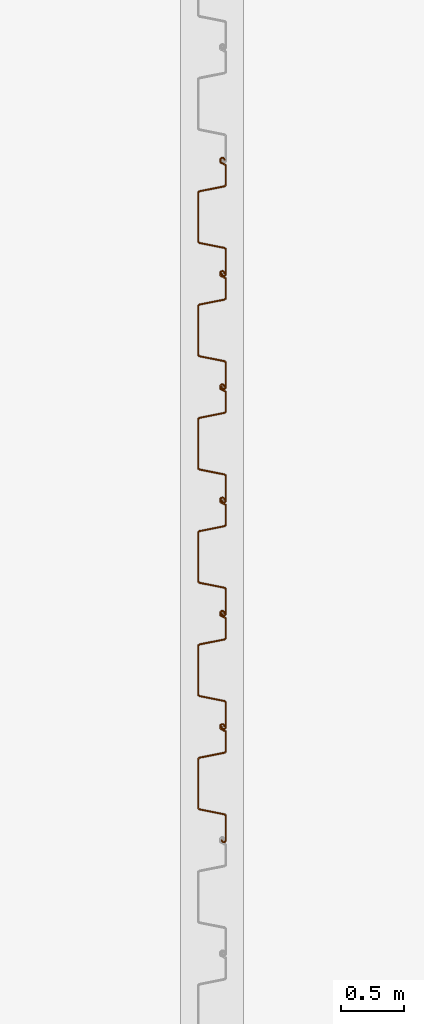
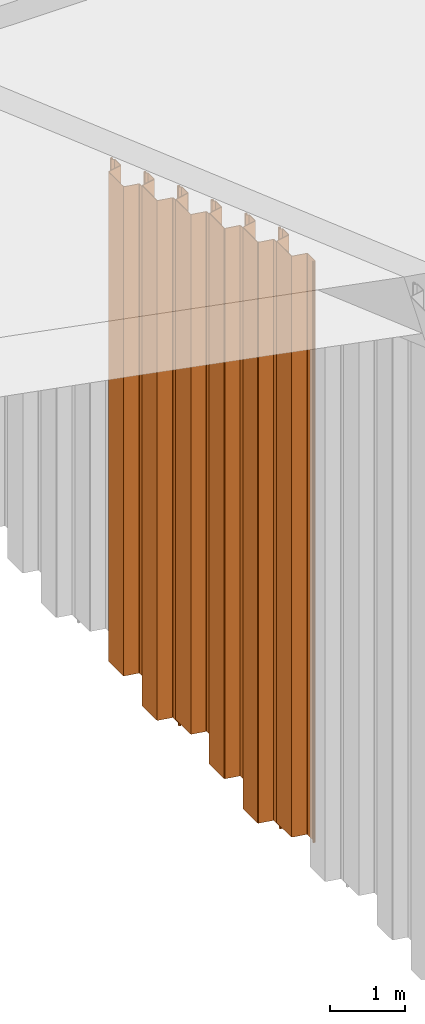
# One storey, part 13 of 32: 6 proxies.
"""IFC2X3 building model written with IfcOpenShell, lengths in millimetres."""

import ifcopenshell
import ifcopenshell.guid

model = None  # the IFC model being written
_history = None  # IfcOwnerHistory: only IFC2X3 demands one
_inside = {}  # id of a spatial element -> (the spatial element, [elements in it])
_under = {}  # id of a project, library or spatial element -> (it, [spatial elements below it])
_declared = {}  # id of a project -> (the project, [libraries it declares])
_typed = {}  # id of a type object -> (the type object, [elements of that type])
_made_of = {}  # id of a material, layer set ... -> (it, [elements and type objects made of it])


def new_model(schema):
    """Start an empty IFC model of exactly this schema.

    Asked for "IFC4X3", IfcOpenShell would pick the latest addendum, in which some entities
    have other attributes; the version numbers below select the first issue.
    IFC2X3 requires an IfcOwnerHistory on every rooted entity: one is made here for all.
    """
    global model, _history
    if schema == "IFC4X3":
        model = ifcopenshell.file(schema_version=(4, 3, 0, 0))
    else:
        model = ifcopenshell.file(schema=schema)
    _inside.clear()
    _under.clear()
    _declared.clear()
    _typed.clear()
    _made_of.clear()
    _history = None
    if model.schema == "IFC2X3":
        org = make("IfcOrganization", Name="unknown")
        user = make(
            "IfcPersonAndOrganization",
            ThePerson=make("IfcPerson", FamilyName="unknown"),
            TheOrganization=org,
        )
        app = make(
            "IfcApplication",
            ApplicationDeveloper=org,
            Version="unknown",
            ApplicationFullName="unknown",
            ApplicationIdentifier="unknown",
        )
        _history = make(
            "IfcOwnerHistory",
            OwningUser=user,
            OwningApplication=app,
            ChangeAction="ADDED",
            CreationDate=0,
        )
    return model


def make(cls, **values):
    """One entity of the class cls with the attributes given. An attribute that is None is left unset."""
    return model.create_entity(
        cls, **{name: value for name, value in values.items() if value is not None}
    )


def entity(cls, *values):
    """Any entity or typed value of the class cls, its attributes in the order of the schema. None: left unset."""
    e = model.create_entity(cls)
    for i, value in enumerate(values):
        if value is not None:
            e[i] = value
    return e


def rooted(cls, **values):
    """An entity with a GlobalId (a new one), such as an element, a storey or a relation."""
    return make(cls, GlobalId=ifcopenshell.guid.new(), OwnerHistory=_history, **values)


def si_unit(unit_type, name, prefix=None):
    """IfcSIUnit, for example si_unit("LENGTHUNIT", "METRE", prefix="MILLI")."""
    return make("IfcSIUnit", UnitType=unit_type, Prefix=prefix, Name=name)


def converted_unit(unit_type, name, factor, base, dimensions=None, offset=None):
    """IfcConversionBasedUnit, such as the inch: factor (a typed value) times the base unit."""
    return make(
        "IfcConversionBasedUnit"
        if offset is None
        else "IfcConversionBasedUnitWithOffset",
        ConversionOffset=offset,
        Dimensions=None
        if dimensions is None
        else entity("IfcDimensionalExponents", *dimensions),
        UnitType=unit_type,
        Name=name,
        ConversionFactor=make(
            "IfcMeasureWithUnit", ValueComponent=factor, UnitComponent=base
        ),
    )


def derived_unit(unit_type, elements):
    """IfcDerivedUnit: a product of units, each with its exponent."""
    return make(
        "IfcDerivedUnit",
        Elements=[
            make("IfcDerivedUnitElement", Unit=unit, Exponent=power)
            for unit, power in elements
        ],
        UnitType=unit_type,
    )


def assignment(units):
    """IfcUnitAssignment: the units of a project."""
    return None if units is None else make("IfcUnitAssignment", Units=units)


def point(xyz):
    """IfcCartesianPoint."""
    return None if xyz is None else make("IfcCartesianPoint", Coordinates=xyz)


def direction(xyz):
    """IfcDirection."""
    return None if xyz is None else make("IfcDirection", DirectionRatios=xyz)


def frame(location, z_axis=None, x_axis=None):
    """IfcAxis2Placement3D, a coordinate frame: its origin and axes. An axis left out is left unset."""
    return make(
        "IfcAxis2Placement3D",
        Location=point(location),
        Axis=direction(z_axis),
        RefDirection=direction(x_axis),
    )


def frame_2d(location, x_axis=None):
    """IfcAxis2Placement2D, a coordinate frame in the plane: its origin and x axis."""
    return make(
        "IfcAxis2Placement2D", Location=point(location), RefDirection=direction(x_axis)
    )


def origin():
    """The frame at (0, 0, 0) with its axes left unset."""
    return frame((0.0, 0.0, 0.0))


def place(relative_to, where):
    """IfcLocalPlacement: puts the frame where relative to a parent placement (None: the world)."""
    return make(
        "IfcLocalPlacement", PlacementRelTo=relative_to, RelativePlacement=where
    )


def context(
    kind, dimensions, precision=None, world=None, true_north=None, identifier=None
):
    """IfcGeometricRepresentationContext, for example the 3D "Model" context."""
    return make(
        "IfcGeometricRepresentationContext",
        ContextIdentifier=identifier,
        ContextType=kind,
        CoordinateSpaceDimension=dimensions,
        Precision=precision,
        WorldCoordinateSystem=world,
        TrueNorth=true_north,
    )


def subcontext(parent, identifier, kind, view, scale=None):
    """IfcGeometricRepresentationSubContext, for example "Body" below "Model"."""
    return make(
        "IfcGeometricRepresentationSubContext",
        ContextIdentifier=identifier,
        ContextType=kind,
        ParentContext=parent,
        TargetScale=scale,
        TargetView=view,
    )


def project(units=None, contexts=None):
    """IfcProject with its units and contexts."""
    return rooted(
        "IfcProject",
        Name="project",
        RepresentationContexts=contexts,
        UnitsInContext=assignment(units),
    )


def spatial(cls, under=None, at=None, **own):
    """A site, building, storey or space (cls), placed at a placement, below another one or the project."""
    s = rooted(cls, ObjectPlacement=at, **own)
    if under is not None:
        _under.setdefault(under.id(), (under, []))[1].append(s)
    return s


def polyline(points):
    """IfcPolyline through the points."""
    return make("IfcPolyline", Points=[point(p) for p in points])


def circle_curve(where, radius):
    """IfcCircle in the frame where."""
    return make("IfcCircle", Position=where, Radius=radius)


def parameter(value):
    """IfcParameterValue: where a trimmed curve begins or ends, as a parameter of its basis curve."""
    return model.create_entity("IfcParameterValue", value)


def trimmed(basis, trim1, trim2, sense, master):
    """IfcTrimmedCurve: the piece of a basis curve between two trims."""
    return make(
        "IfcTrimmedCurve",
        BasisCurve=basis,
        Trim1=trim1,
        Trim2=trim2,
        SenseAgreement=sense,
        MasterRepresentation=master,
    )


def segment(curve, same_sense, transition):
    """IfcCompositeCurveSegment."""
    return make(
        "IfcCompositeCurveSegment",
        Transition=transition,
        SameSense=same_sense,
        ParentCurve=curve,
    )


def composite_curve(segments, self_intersect=None):
    """IfcCompositeCurve: segments joined end to end."""
    return make("IfcCompositeCurve", Segments=segments, SelfIntersect=self_intersect)


def outline(outer, holes=None, kind="AREA"):
    """IfcArbitraryClosedProfileDef: a profile drawn as a closed curve; with holes, ...WithVoids."""
    if holes is None:
        return make("IfcArbitraryClosedProfileDef", ProfileType=kind, OuterCurve=outer)
    return make(
        "IfcArbitraryProfileDefWithVoids",
        ProfileType=kind,
        OuterCurve=outer,
        InnerCurves=holes,
    )


def extrude(swept, where, along, depth):
    """IfcExtrudedAreaSolid: the profile swept, set in the frame where, extruded along a direction by depth."""
    return make(
        "IfcExtrudedAreaSolid",
        SweptArea=swept,
        Position=where,
        ExtrudedDirection=direction(along),
        Depth=depth,
    )


def shape(context_of_items, identifier, shape_type, items):
    """IfcShapeRepresentation: the items that make up one representation, for example the "Body"."""
    return make(
        "IfcShapeRepresentation",
        ContextOfItems=context_of_items,
        RepresentationIdentifier=identifier,
        RepresentationType=shape_type,
        Items=items,
    )


def source(mapping_origin, context_of_items, identifier, shape_type, items):
    """IfcRepresentationMap: a shape defined once, which mapped items show again and again."""
    return make(
        "IfcRepresentationMap",
        MappingOrigin=mapping_origin,
        MappedRepresentation=shape(context_of_items, identifier, shape_type, items),
    )


def transform(
    local_origin,
    x_axis=None,
    y_axis=None,
    z_axis=None,
    scale=None,
    scale2=None,
    scale3=None,
    uniform=True,
):
    """IfcCartesianTransformationOperator3D, or its non-uniform kind. x_axis, y_axis, z_axis: its Axis1, 2, 3."""
    if uniform:
        return make(
            "IfcCartesianTransformationOperator3D",
            Axis1=direction(x_axis),
            Axis2=direction(y_axis),
            LocalOrigin=point(local_origin),
            Scale=scale,
            Axis3=direction(z_axis),
        )
    return make(
        "IfcCartesianTransformationOperator3DnonUniform",
        Axis1=direction(x_axis),
        Axis2=direction(y_axis),
        LocalOrigin=point(local_origin),
        Scale=scale,
        Axis3=direction(z_axis),
        Scale2=scale2,
        Scale3=scale3,
    )


def mapped(mapping_source, mapping_target):
    """IfcMappedItem: shows the shape of a source again, moved by a transform."""
    return make(
        "IfcMappedItem", MappingSource=mapping_source, MappingTarget=mapping_target
    )


def made_of(thing, what):
    """Note that an element or type object is made of a material, layer set ...; save() writes the relation."""
    if what is not None:
        _made_of.setdefault(what.id(), (what, []))[1].append(thing)
    return thing


def type_object(cls, material=None, **own):
    """A type object (cls), such as IfcWallType, which elements share."""
    return made_of(rooted(cls, **own), material)


def type_shapes(of_type, sources):
    """Give a type object the sources (RepresentationMaps) that its elements show as mapped items."""
    of_type.RepresentationMaps = sources


def element(
    cls,
    number,
    at=None,
    inside=None,
    cuts=None,
    type_object=None,
    material=None,
    context=None,
    identifier="Body",
    shape_type=None,
    held_by="IfcProductDefinitionShape",
    body=None,
    shapes=None,
    **own,
):
    """One element of the class cls, such as IfcWall. Its Tag is "e" and its number.

    at: its placement. inside: the storey or other place that contains it. cuts: it is an
    opening in that element (IfcRelVoidsElement). A single representation is given by context,
    identifier, shape_type and body (its items); several are given by shapes. held_by: the class
    of the entity that holds the representations. save() writes the other relations.
    """
    e = rooted(cls, Tag="e%d" % number, ObjectPlacement=at, **own)
    if body is not None:
        shapes = [shape(context, identifier, shape_type, body)]
    if shapes is not None:
        e.Representation = make(held_by, Representations=shapes)
    if inside is not None:
        _inside.setdefault(inside.id(), (inside, []))[1].append(e)
    if cuts is not None:
        rooted(
            "IfcRelVoidsElement", RelatingBuildingElement=cuts, RelatedOpeningElement=e
        )
    if type_object is not None:
        _typed.setdefault(type_object.id(), (type_object, []))[1].append(e)
    return made_of(e, material)


def aggregate(whole, parts):
    """IfcRelAggregates: a whole, such as a stair, and the parts it consists of."""
    return rooted("IfcRelAggregates", RelatingObject=whole, RelatedObjects=parts)


def save(model, path):
    """Write the relations noted so far, then the file.

    IfcRelAggregates (storeys below a building ...), IfcRelContainedInSpatialStructure (elements
    in a storey), IfcRelDefinesByType, IfcRelAssociatesMaterial and IfcRelDeclares: one each for
    every whole, place, type object, material and project.
    """
    for whole, parts in _under.values():
        aggregate(whole, parts)
    for where, things in _inside.values():
        rooted(
            "IfcRelContainedInSpatialStructure",
            RelatedElements=things,
            RelatingStructure=where,
        )
    for kind, things in _typed.values():
        rooted("IfcRelDefinesByType", RelatedObjects=things, RelatingType=kind)
    for what, things in _made_of.values():
        rooted("IfcRelAssociatesMaterial", RelatedObjects=things, RelatingMaterial=what)
    for by, libraries in _declared.values():
        rooted("IfcRelDeclares", RelatingContext=by, RelatedDefinitions=libraries)
    model.write(path)


model = new_model("IFC2X3")

# Units and contexts
model_context = context("Model", 3, precision=0.01, world=origin(), true_north=direction((6.12303176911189e-17, 1.0)))
body_context = subcontext(model_context, "Body", "Model", "MODEL_VIEW")
ifc_project = project(units=[si_unit("LENGTHUNIT", "METRE", prefix="MILLI"), si_unit("AREAUNIT", "SQUARE_METRE"), si_unit("VOLUMEUNIT", "CUBIC_METRE"), converted_unit("PLANEANGLEUNIT", "DEGREE", entity("IfcRatioMeasure", 0.0174532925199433), si_unit("PLANEANGLEUNIT", "RADIAN"), dimensions=[0, 0, 0, 0, 0, 0, 0]), si_unit("MASSUNIT", "GRAM", prefix="KILO"), derived_unit("MASSDENSITYUNIT", [(si_unit("MASSUNIT", "GRAM", prefix="KILO"), 1), (si_unit("LENGTHUNIT", "METRE"), -3)]), si_unit("TIMEUNIT", "SECOND"), si_unit("FREQUENCYUNIT", "HERTZ"), si_unit("THERMODYNAMICTEMPERATUREUNIT", "DEGREE_CELSIUS"), derived_unit("THERMALTRANSMITTANCEUNIT", [(si_unit("MASSUNIT", "GRAM", prefix="KILO"), 1), (si_unit("THERMODYNAMICTEMPERATUREUNIT", "KELVIN"), -1), (si_unit("TIMEUNIT", "SECOND"), -3)]), derived_unit("VOLUMETRICFLOWRATEUNIT", [(si_unit("LENGTHUNIT", "METRE"), 3), (si_unit("TIMEUNIT", "SECOND"), -1)]), si_unit("ELECTRICCURRENTUNIT", "AMPERE"), si_unit("ELECTRICVOLTAGEUNIT", "VOLT"), si_unit("POWERUNIT", "WATT"), si_unit("FORCEUNIT", "NEWTON", prefix="KILO"), si_unit("ILLUMINANCEUNIT", "LUX"), si_unit("LUMINOUSFLUXUNIT", "LUMEN"), si_unit("LUMINOUSINTENSITYUNIT", "CANDELA"), derived_unit("USERDEFINED", [(si_unit("MASSUNIT", "GRAM", prefix="KILO"), -1), (si_unit("LENGTHUNIT", "METRE"), -2), (si_unit("TIMEUNIT", "SECOND"), 3), (si_unit("LUMINOUSFLUXUNIT", "LUMEN"), 1)]), derived_unit("LINEARVELOCITYUNIT", [(si_unit("LENGTHUNIT", "METRE"), 1), (si_unit("TIMEUNIT", "SECOND"), -1)]), si_unit("PRESSUREUNIT", "PASCAL"), derived_unit("USERDEFINED", [(si_unit("LENGTHUNIT", "METRE"), -2), (si_unit("MASSUNIT", "GRAM", prefix="KILO"), 1), (si_unit("TIMEUNIT", "SECOND"), -2)])], contexts=[model_context])

# Site, building, storey
site_placement = place(None, origin())
site = spatial("IfcSite", under=ifc_project, at=site_placement, Name="Default", CompositionType="ELEMENT")
building_placement = place(site_placement, origin())
building = spatial("IfcBuilding", under=site, at=building_placement, CompositionType="ELEMENT")
storey_placement = place(building_placement, origin())
storey = spatial("IfcBuildingStorey", under=building, at=storey_placement, Name="矢板", CompositionType="ELEMENT", Elevation=0.0)

# Proxies
building_element_proxy_type_1 = type_object("IfcBuildingElementProxyType", Name="鋼矢板10H型", PredefinedType="NOTDEFINED")
shared_shape_1 = source(origin(), body_context, "Body", "SweptSolid", [
    extrude(outline(composite_curve([segment(trimmed(circle_curve(frame_2d((85.3662976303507, 306.644432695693), x_axis=(0.422618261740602, 0.906307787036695)), 13.885714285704), [parameter(24.9999999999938)], [parameter(90.0000000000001)], True, "PARAMETER"), True, "CONTINUOUS"), segment(polyline([(72.7815666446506, 312.512789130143), (9.8129512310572, 177.476157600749)]), True, "CONTINUOUS"), segment(trimmed(circle_curve(frame_2d((29.3891994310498, 168.347603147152), x_axis=(0.422618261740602, 0.906307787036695)), 21.6), [parameter(90.0000000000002)], [parameter(168.69006752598)], True, "PARAMETER"), True, "CONTINUOUS"), segment(polyline([(16.598697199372, 150.941769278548), (175.329723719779, 34.2998683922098)]), True, "CONTINUOUS"), segment(trimmed(circle_curve(frame_2d((168.93447260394, 25.596951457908), x_axis=(0.422618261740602, 0.906307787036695)), 10.7999999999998), [parameter(270.0)], [parameter(348.690067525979)], True, "PARAMETER"), False, "CONTINUOUS"), segment(polyline([(178.722596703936, 21.0326742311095), (18.2974003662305, -323.000269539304)]), True, "CONTINUOUS"), segment(trimmed(circle_curve(frame_2d((8.50927626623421, -318.435992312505), x_axis=(0.422618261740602, 0.906307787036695)), 10.8), [parameter(191.30993247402)], [parameter(269.999999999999)], True, "PARAMETER"), False, "CONTINUOUS"), segment(polyline([(5.95324328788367, -328.929166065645), (-185.429973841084, -282.310113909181)]), True, "CONTINUOUS"), segment(trimmed(circle_curve(frame_2d((-190.542039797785, -303.296461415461), x_axis=(0.422618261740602, 0.906307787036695)), 21.6000000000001), [parameter(11.3099324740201)], [parameter(90.0000000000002)], True, "PARAMETER"), True, "CONTINUOUS"), segment(polyline([(-210.118287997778, -294.167906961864), (-290.330886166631, -466.184378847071)]), True, "CONTINUOUS"), segment(trimmed(circle_curve(frame_2d((-270.754637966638, -475.312933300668), x_axis=(0.422618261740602, 0.906307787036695)), 21.6), [parameter(90.0000000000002)], [parameter(269.999999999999)], True, "PARAMETER"), True, "CONTINUOUS"), segment(polyline([(-251.178389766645, -484.441487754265), (-249.065298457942, -479.909948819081)]), True, "CONTINUOUS"), segment(polyline([(-249.065298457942, -479.909948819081), (-258.853422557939, -475.345671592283)]), True, "CONTINUOUS"), segment(polyline([(-258.853422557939, -475.345671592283), (-260.966513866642, -479.877210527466)]), True, "CONTINUOUS"), segment(trimmed(circle_curve(frame_2d((-270.754637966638, -475.312933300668), x_axis=(0.422618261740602, 0.906307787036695)), 10.8), [parameter(90.0000000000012)], [parameter(270.0)], True, "PARAMETER"), False, "CONTINUOUS"), segment(polyline([(-280.542762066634, -470.748656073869), (-200.330163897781, -298.732184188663)]), True, "CONTINUOUS"), segment(trimmed(circle_curve(frame_2d((-190.542039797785, -303.296461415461), x_axis=(0.422618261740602, 0.906307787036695)), 10.8), [parameter(11.3099324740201)], [parameter(89.9999999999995)], True, "PARAMETER"), False, "CONTINUOUS"), segment(polyline([(-187.986006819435, -292.803287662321), (3.39721030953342, -339.422339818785)]), True, "CONTINUOUS"), segment(trimmed(circle_curve(frame_2d((8.50927626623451, -318.435992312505), x_axis=(0.422618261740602, 0.906307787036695)), 21.6), [parameter(191.30993247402)], [parameter(270.0)], True, "PARAMETER"), True, "CONTINUOUS"), segment(polyline([(28.0855244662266, -327.564546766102), (188.510720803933, 16.4683970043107)]), True, "CONTINUOUS"), segment(trimmed(circle_curve(frame_2d((168.93447260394, 25.5969514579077), x_axis=(0.422618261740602, 0.906307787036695)), 21.6), [parameter(270.0)], [parameter(348.69006752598)], True, "PARAMETER"), True, "CONTINUOUS"), segment(polyline([(181.724974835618, 43.0027853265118), (22.9939483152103, 159.644686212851)]), True, "CONTINUOUS"), segment(trimmed(circle_curve(frame_2d((29.3891994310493, 168.347603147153), x_axis=(0.422618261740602, 0.906307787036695)), 10.7999999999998), [parameter(89.9999999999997)], [parameter(168.690067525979)], True, "PARAMETER"), False, "CONTINUOUS"), segment(polyline([(19.6010753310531, 172.911880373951), (82.5696907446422, 307.948511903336)]), True, "CONTINUOUS"), segment(trimmed(circle_curve(frame_2d((85.3662976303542, 306.64443269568), x_axis=(0.422618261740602, 0.906307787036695)), 3.08571428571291), [parameter(25.0000000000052)], [parameter(90.0000000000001)], True, "PARAMETER"), False, "CONTINUOUS"), segment(polyline([(85.3662976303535, 309.730146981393), (122.220231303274, 309.730146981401)]), True, "CONTINUOUS"), segment(trimmed(circle_curve(frame_2d((122.220231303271, 323.615861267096), x_axis=(0.422618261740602, 0.906307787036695)), 13.8857142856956), [parameter(205.000000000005)], [parameter(270.0)], True, "PARAMETER"), True, "CONTINUOUS"), segment(polyline([(134.804962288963, 317.747504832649), (141.079261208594, 331.202782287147)]), True, "CONTINUOUS"), segment(trimmed(circle_curve(frame_2d((121.503013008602, 340.331336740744), x_axis=(0.422618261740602, 0.906307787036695)), 21.6), [parameter(270.0)], [parameter(90.0000000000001)], True, "PARAMETER"), True, "CONTINUOUS"), segment(polyline([(101.926764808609, 349.459891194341), (99.8136734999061, 344.928352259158)]), True, "CONTINUOUS"), segment(polyline([(99.8136734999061, 344.928352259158), (109.601797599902, 340.364075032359)]), True, "CONTINUOUS"), segment(polyline([(109.601797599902, 340.364075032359), (111.714888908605, 344.895613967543)]), True, "CONTINUOUS"), segment(trimmed(circle_curve(frame_2d((121.503013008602, 340.331336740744), x_axis=(0.422618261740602, 0.906307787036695)), 10.8), [parameter(270.0)], [parameter(89.9999999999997)], True, "PARAMETER"), False, "CONTINUOUS"), segment(polyline([(131.291137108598, 335.767059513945), (125.01683818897, 322.311782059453)]), True, "CONTINUOUS"), segment(trimmed(circle_curve(frame_2d((122.220231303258, 323.615861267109), x_axis=(0.422618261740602, 0.906307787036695)), 3.08571428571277), [parameter(204.999999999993)], [parameter(270.0)], True, "PARAMETER"), False, "CONTINUOUS"), segment(polyline([(122.220231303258, 320.530146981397), (85.3662976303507, 320.530146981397)]), True, "CONTINUOUS")], self_intersect=False)), frame((95.205667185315, -48.8888888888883, -8000.0), z_axis=(0.0, 0.0, -1.0), x_axis=(0.4226182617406, 0.906307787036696, 0.0)), (0.0, 0.0, -1.0), 8000.0),
])
type_shapes(building_element_proxy_type_1, [shared_shape_1])
proxy_1_placement = place(storey_placement, frame((-128208.0, 21851.0, 10081.0), z_axis=(0.0, 0.0, 1.0), x_axis=(0.0, 1.0, 0.0)))
element("IfcBuildingElementProxy", 1, at=proxy_1_placement, inside=storey, type_object=building_element_proxy_type_1, Name="鋼矢板10H型:鋼矢板10H型", ObjectType="鋼矢板10H型:鋼矢板10H型", context=body_context, shape_type="MappedRepresentation", body=[
    mapped(shared_shape_1, transform((0.0, 0.0, 0.0), scale=1.0)),
])
building_element_proxy_type_2 = type_object("IfcBuildingElementProxyType", Name="鋼矢板10H型", PredefinedType="NOTDEFINED")
shared_shape_2 = source(origin(), body_context, "Body", "SweptSolid", [
    extrude(outline(composite_curve([segment(trimmed(circle_curve(frame_2d((85.3662976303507, 306.644432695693), x_axis=(0.422618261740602, 0.906307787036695)), 13.885714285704), [parameter(24.9999999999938)], [parameter(90.0000000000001)], True, "PARAMETER"), True, "CONTINUOUS"), segment(polyline([(72.7815666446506, 312.512789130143), (9.8129512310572, 177.476157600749)]), True, "CONTINUOUS"), segment(trimmed(circle_curve(frame_2d((29.3891994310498, 168.347603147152), x_axis=(0.422618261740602, 0.906307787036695)), 21.6), [parameter(90.0000000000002)], [parameter(168.69006752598)], True, "PARAMETER"), True, "CONTINUOUS"), segment(polyline([(16.598697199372, 150.941769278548), (175.329723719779, 34.2998683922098)]), True, "CONTINUOUS"), segment(trimmed(circle_curve(frame_2d((168.93447260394, 25.596951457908), x_axis=(0.422618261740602, 0.906307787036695)), 10.7999999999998), [parameter(270.0)], [parameter(348.690067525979)], True, "PARAMETER"), False, "CONTINUOUS"), segment(polyline([(178.722596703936, 21.0326742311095), (18.2974003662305, -323.000269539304)]), True, "CONTINUOUS"), segment(trimmed(circle_curve(frame_2d((8.50927626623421, -318.435992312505), x_axis=(0.422618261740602, 0.906307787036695)), 10.8), [parameter(191.30993247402)], [parameter(269.999999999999)], True, "PARAMETER"), False, "CONTINUOUS"), segment(polyline([(5.95324328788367, -328.929166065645), (-185.429973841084, -282.310113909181)]), True, "CONTINUOUS"), segment(trimmed(circle_curve(frame_2d((-190.542039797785, -303.296461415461), x_axis=(0.422618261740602, 0.906307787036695)), 21.6000000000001), [parameter(11.3099324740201)], [parameter(90.0000000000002)], True, "PARAMETER"), True, "CONTINUOUS"), segment(polyline([(-210.118287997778, -294.167906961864), (-290.330886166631, -466.184378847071)]), True, "CONTINUOUS"), segment(trimmed(circle_curve(frame_2d((-270.754637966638, -475.312933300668), x_axis=(0.422618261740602, 0.906307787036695)), 21.6), [parameter(90.0000000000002)], [parameter(269.999999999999)], True, "PARAMETER"), True, "CONTINUOUS"), segment(polyline([(-251.178389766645, -484.441487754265), (-249.065298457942, -479.909948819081)]), True, "CONTINUOUS"), segment(polyline([(-249.065298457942, -479.909948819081), (-258.853422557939, -475.345671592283)]), True, "CONTINUOUS"), segment(polyline([(-258.853422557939, -475.345671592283), (-260.966513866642, -479.877210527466)]), True, "CONTINUOUS"), segment(trimmed(circle_curve(frame_2d((-270.754637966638, -475.312933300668), x_axis=(0.422618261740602, 0.906307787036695)), 10.8), [parameter(90.0000000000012)], [parameter(270.0)], True, "PARAMETER"), False, "CONTINUOUS"), segment(polyline([(-280.542762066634, -470.748656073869), (-200.330163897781, -298.732184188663)]), True, "CONTINUOUS"), segment(trimmed(circle_curve(frame_2d((-190.542039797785, -303.296461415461), x_axis=(0.422618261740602, 0.906307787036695)), 10.8), [parameter(11.3099324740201)], [parameter(89.9999999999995)], True, "PARAMETER"), False, "CONTINUOUS"), segment(polyline([(-187.986006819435, -292.803287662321), (3.39721030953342, -339.422339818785)]), True, "CONTINUOUS"), segment(trimmed(circle_curve(frame_2d((8.50927626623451, -318.435992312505), x_axis=(0.422618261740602, 0.906307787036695)), 21.6), [parameter(191.30993247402)], [parameter(270.0)], True, "PARAMETER"), True, "CONTINUOUS"), segment(polyline([(28.0855244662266, -327.564546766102), (188.510720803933, 16.4683970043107)]), True, "CONTINUOUS"), segment(trimmed(circle_curve(frame_2d((168.93447260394, 25.5969514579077), x_axis=(0.422618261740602, 0.906307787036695)), 21.6), [parameter(270.0)], [parameter(348.69006752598)], True, "PARAMETER"), True, "CONTINUOUS"), segment(polyline([(181.724974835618, 43.0027853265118), (22.9939483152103, 159.644686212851)]), True, "CONTINUOUS"), segment(trimmed(circle_curve(frame_2d((29.3891994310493, 168.347603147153), x_axis=(0.422618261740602, 0.906307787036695)), 10.7999999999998), [parameter(89.9999999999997)], [parameter(168.690067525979)], True, "PARAMETER"), False, "CONTINUOUS"), segment(polyline([(19.6010753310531, 172.911880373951), (82.5696907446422, 307.948511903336)]), True, "CONTINUOUS"), segment(trimmed(circle_curve(frame_2d((85.3662976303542, 306.64443269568), x_axis=(0.422618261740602, 0.906307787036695)), 3.08571428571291), [parameter(25.0000000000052)], [parameter(90.0000000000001)], True, "PARAMETER"), False, "CONTINUOUS"), segment(polyline([(85.3662976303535, 309.730146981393), (122.220231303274, 309.730146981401)]), True, "CONTINUOUS"), segment(trimmed(circle_curve(frame_2d((122.220231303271, 323.615861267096), x_axis=(0.422618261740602, 0.906307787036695)), 13.8857142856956), [parameter(205.000000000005)], [parameter(270.0)], True, "PARAMETER"), True, "CONTINUOUS"), segment(polyline([(134.804962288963, 317.747504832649), (141.079261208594, 331.202782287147)]), True, "CONTINUOUS"), segment(trimmed(circle_curve(frame_2d((121.503013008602, 340.331336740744), x_axis=(0.422618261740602, 0.906307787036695)), 21.6), [parameter(270.0)], [parameter(90.0000000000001)], True, "PARAMETER"), True, "CONTINUOUS"), segment(polyline([(101.926764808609, 349.459891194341), (99.8136734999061, 344.928352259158)]), True, "CONTINUOUS"), segment(polyline([(99.8136734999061, 344.928352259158), (109.601797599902, 340.364075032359)]), True, "CONTINUOUS"), segment(polyline([(109.601797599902, 340.364075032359), (111.714888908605, 344.895613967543)]), True, "CONTINUOUS"), segment(trimmed(circle_curve(frame_2d((121.503013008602, 340.331336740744), x_axis=(0.422618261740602, 0.906307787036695)), 10.8), [parameter(270.0)], [parameter(89.9999999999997)], True, "PARAMETER"), False, "CONTINUOUS"), segment(polyline([(131.291137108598, 335.767059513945), (125.01683818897, 322.311782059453)]), True, "CONTINUOUS"), segment(trimmed(circle_curve(frame_2d((122.220231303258, 323.615861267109), x_axis=(0.422618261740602, 0.906307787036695)), 3.08571428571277), [parameter(204.999999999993)], [parameter(270.0)], True, "PARAMETER"), False, "CONTINUOUS"), segment(polyline([(122.220231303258, 320.530146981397), (85.3662976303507, 320.530146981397)]), True, "CONTINUOUS")], self_intersect=False)), frame((95.205667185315, -48.8888888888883, -8500.0), z_axis=(0.0, 0.0, -1.0), x_axis=(0.4226182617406, 0.906307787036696, 0.0)), (0.0, 0.0, -1.0), 8500.0),
])
type_shapes(building_element_proxy_type_2, [shared_shape_2])
for number, where, z_axis, x_axis in (
    (2, (-128208.0, 20951.0, 10400.0), (0.0, 0.0, 1.0), (0.0, 1.0, 0.0)),
    (3, (-128208.0, 20051.0, 10719.0), (0.0, 0.0, 1.0), (0.0, 1.0, 0.0)),
):
    element("IfcBuildingElementProxy", number, at=place(storey_placement, frame(where, z_axis=z_axis, x_axis=x_axis)), inside=storey, type_object=building_element_proxy_type_2, Name="鋼矢板10H型:鋼矢板10H型", ObjectType="鋼矢板10H型:鋼矢板10H型", context=body_context, shape_type="MappedRepresentation", body=[
        mapped(shared_shape_2, transform((0.0, 0.0, 0.0), scale=1.0)),
    ])
building_element_proxy_type_3 = type_object("IfcBuildingElementProxyType", Name="鋼矢板10H型", PredefinedType="NOTDEFINED")
shared_shape_3 = source(origin(), body_context, "Body", "SweptSolid", [
    extrude(outline(composite_curve([segment(trimmed(circle_curve(frame_2d((85.3662976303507, 306.644432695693), x_axis=(0.422618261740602, 0.906307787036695)), 13.885714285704), [parameter(24.9999999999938)], [parameter(90.0000000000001)], True, "PARAMETER"), True, "CONTINUOUS"), segment(polyline([(72.7815666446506, 312.512789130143), (9.8129512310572, 177.476157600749)]), True, "CONTINUOUS"), segment(trimmed(circle_curve(frame_2d((29.3891994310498, 168.347603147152), x_axis=(0.422618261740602, 0.906307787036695)), 21.6), [parameter(90.0000000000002)], [parameter(168.69006752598)], True, "PARAMETER"), True, "CONTINUOUS"), segment(polyline([(16.598697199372, 150.941769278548), (175.329723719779, 34.2998683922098)]), True, "CONTINUOUS"), segment(trimmed(circle_curve(frame_2d((168.93447260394, 25.596951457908), x_axis=(0.422618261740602, 0.906307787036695)), 10.7999999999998), [parameter(270.0)], [parameter(348.690067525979)], True, "PARAMETER"), False, "CONTINUOUS"), segment(polyline([(178.722596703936, 21.0326742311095), (18.2974003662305, -323.000269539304)]), True, "CONTINUOUS"), segment(trimmed(circle_curve(frame_2d((8.50927626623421, -318.435992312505), x_axis=(0.422618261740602, 0.906307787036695)), 10.8), [parameter(191.30993247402)], [parameter(269.999999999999)], True, "PARAMETER"), False, "CONTINUOUS"), segment(polyline([(5.95324328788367, -328.929166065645), (-185.429973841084, -282.310113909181)]), True, "CONTINUOUS"), segment(trimmed(circle_curve(frame_2d((-190.542039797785, -303.296461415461), x_axis=(0.422618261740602, 0.906307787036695)), 21.6000000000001), [parameter(11.3099324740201)], [parameter(90.0000000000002)], True, "PARAMETER"), True, "CONTINUOUS"), segment(polyline([(-210.118287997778, -294.167906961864), (-290.330886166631, -466.184378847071)]), True, "CONTINUOUS"), segment(trimmed(circle_curve(frame_2d((-270.754637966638, -475.312933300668), x_axis=(0.422618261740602, 0.906307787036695)), 21.6), [parameter(90.0000000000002)], [parameter(269.999999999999)], True, "PARAMETER"), True, "CONTINUOUS"), segment(polyline([(-251.178389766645, -484.441487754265), (-249.065298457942, -479.909948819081)]), True, "CONTINUOUS"), segment(polyline([(-249.065298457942, -479.909948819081), (-258.853422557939, -475.345671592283)]), True, "CONTINUOUS"), segment(polyline([(-258.853422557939, -475.345671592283), (-260.966513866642, -479.877210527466)]), True, "CONTINUOUS"), segment(trimmed(circle_curve(frame_2d((-270.754637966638, -475.312933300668), x_axis=(0.422618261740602, 0.906307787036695)), 10.8), [parameter(90.0000000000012)], [parameter(270.0)], True, "PARAMETER"), False, "CONTINUOUS"), segment(polyline([(-280.542762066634, -470.748656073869), (-200.330163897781, -298.732184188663)]), True, "CONTINUOUS"), segment(trimmed(circle_curve(frame_2d((-190.542039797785, -303.296461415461), x_axis=(0.422618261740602, 0.906307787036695)), 10.8), [parameter(11.3099324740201)], [parameter(89.9999999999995)], True, "PARAMETER"), False, "CONTINUOUS"), segment(polyline([(-187.986006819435, -292.803287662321), (3.39721030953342, -339.422339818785)]), True, "CONTINUOUS"), segment(trimmed(circle_curve(frame_2d((8.50927626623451, -318.435992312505), x_axis=(0.422618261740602, 0.906307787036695)), 21.6), [parameter(191.30993247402)], [parameter(270.0)], True, "PARAMETER"), True, "CONTINUOUS"), segment(polyline([(28.0855244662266, -327.564546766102), (188.510720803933, 16.4683970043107)]), True, "CONTINUOUS"), segment(trimmed(circle_curve(frame_2d((168.93447260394, 25.5969514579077), x_axis=(0.422618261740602, 0.906307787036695)), 21.6), [parameter(270.0)], [parameter(348.69006752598)], True, "PARAMETER"), True, "CONTINUOUS"), segment(polyline([(181.724974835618, 43.0027853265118), (22.9939483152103, 159.644686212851)]), True, "CONTINUOUS"), segment(trimmed(circle_curve(frame_2d((29.3891994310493, 168.347603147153), x_axis=(0.422618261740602, 0.906307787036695)), 10.7999999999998), [parameter(89.9999999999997)], [parameter(168.690067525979)], True, "PARAMETER"), False, "CONTINUOUS"), segment(polyline([(19.6010753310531, 172.911880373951), (82.5696907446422, 307.948511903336)]), True, "CONTINUOUS"), segment(trimmed(circle_curve(frame_2d((85.3662976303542, 306.64443269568), x_axis=(0.422618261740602, 0.906307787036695)), 3.08571428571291), [parameter(25.0000000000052)], [parameter(90.0000000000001)], True, "PARAMETER"), False, "CONTINUOUS"), segment(polyline([(85.3662976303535, 309.730146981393), (122.220231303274, 309.730146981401)]), True, "CONTINUOUS"), segment(trimmed(circle_curve(frame_2d((122.220231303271, 323.615861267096), x_axis=(0.422618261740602, 0.906307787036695)), 13.8857142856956), [parameter(205.000000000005)], [parameter(270.0)], True, "PARAMETER"), True, "CONTINUOUS"), segment(polyline([(134.804962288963, 317.747504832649), (141.079261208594, 331.202782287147)]), True, "CONTINUOUS"), segment(trimmed(circle_curve(frame_2d((121.503013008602, 340.331336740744), x_axis=(0.422618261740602, 0.906307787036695)), 21.6), [parameter(270.0)], [parameter(90.0000000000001)], True, "PARAMETER"), True, "CONTINUOUS"), segment(polyline([(101.926764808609, 349.459891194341), (99.8136734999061, 344.928352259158)]), True, "CONTINUOUS"), segment(polyline([(99.8136734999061, 344.928352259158), (109.601797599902, 340.364075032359)]), True, "CONTINUOUS"), segment(polyline([(109.601797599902, 340.364075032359), (111.714888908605, 344.895613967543)]), True, "CONTINUOUS"), segment(trimmed(circle_curve(frame_2d((121.503013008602, 340.331336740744), x_axis=(0.422618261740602, 0.906307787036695)), 10.8), [parameter(270.0)], [parameter(89.9999999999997)], True, "PARAMETER"), False, "CONTINUOUS"), segment(polyline([(131.291137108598, 335.767059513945), (125.01683818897, 322.311782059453)]), True, "CONTINUOUS"), segment(trimmed(circle_curve(frame_2d((122.220231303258, 323.615861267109), x_axis=(0.422618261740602, 0.906307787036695)), 3.08571428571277), [parameter(204.999999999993)], [parameter(270.0)], True, "PARAMETER"), False, "CONTINUOUS"), segment(polyline([(122.220231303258, 320.530146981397), (85.3662976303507, 320.530146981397)]), True, "CONTINUOUS")], self_intersect=False)), frame((95.205667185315, -48.8888888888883, -9000.0), z_axis=(0.0, 0.0, -1.0), x_axis=(0.4226182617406, 0.906307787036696, 0.0)), (0.0, 0.0, -1.0), 9000.0),
])
type_shapes(building_element_proxy_type_3, [shared_shape_3])
proxy_2_placement = place(storey_placement, frame((-128208.0, 19151.0, 11037.0), z_axis=(0.0, 0.0, 1.0), x_axis=(0.0, 1.0, 0.0)))
element("IfcBuildingElementProxy", 4, at=proxy_2_placement, inside=storey, type_object=building_element_proxy_type_3, Name="鋼矢板10H型:鋼矢板10H型", ObjectType="鋼矢板10H型:鋼矢板10H型", context=body_context, shape_type="MappedRepresentation", body=[
    mapped(shared_shape_3, transform((0.0, 0.0, 0.0), scale=1.0)),
])
building_element_proxy_type_4 = type_object("IfcBuildingElementProxyType", Name="鋼矢板10H型", PredefinedType="NOTDEFINED")
shared_shape_4 = source(origin(), body_context, "Body", "SweptSolid", [
    extrude(outline(composite_curve([segment(trimmed(circle_curve(frame_2d((85.3662976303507, 306.644432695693), x_axis=(0.422618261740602, 0.906307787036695)), 13.885714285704), [parameter(24.9999999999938)], [parameter(90.0000000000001)], True, "PARAMETER"), True, "CONTINUOUS"), segment(polyline([(72.7815666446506, 312.512789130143), (9.8129512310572, 177.476157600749)]), True, "CONTINUOUS"), segment(trimmed(circle_curve(frame_2d((29.3891994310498, 168.347603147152), x_axis=(0.422618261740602, 0.906307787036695)), 21.6), [parameter(90.0000000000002)], [parameter(168.69006752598)], True, "PARAMETER"), True, "CONTINUOUS"), segment(polyline([(16.598697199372, 150.941769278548), (175.329723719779, 34.2998683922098)]), True, "CONTINUOUS"), segment(trimmed(circle_curve(frame_2d((168.93447260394, 25.596951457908), x_axis=(0.422618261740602, 0.906307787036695)), 10.7999999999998), [parameter(270.0)], [parameter(348.690067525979)], True, "PARAMETER"), False, "CONTINUOUS"), segment(polyline([(178.722596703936, 21.0326742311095), (18.2974003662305, -323.000269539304)]), True, "CONTINUOUS"), segment(trimmed(circle_curve(frame_2d((8.50927626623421, -318.435992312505), x_axis=(0.422618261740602, 0.906307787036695)), 10.8), [parameter(191.30993247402)], [parameter(269.999999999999)], True, "PARAMETER"), False, "CONTINUOUS"), segment(polyline([(5.95324328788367, -328.929166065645), (-185.429973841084, -282.310113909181)]), True, "CONTINUOUS"), segment(trimmed(circle_curve(frame_2d((-190.542039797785, -303.296461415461), x_axis=(0.422618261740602, 0.906307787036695)), 21.6000000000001), [parameter(11.3099324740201)], [parameter(90.0000000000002)], True, "PARAMETER"), True, "CONTINUOUS"), segment(polyline([(-210.118287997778, -294.167906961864), (-290.330886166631, -466.184378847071)]), True, "CONTINUOUS"), segment(trimmed(circle_curve(frame_2d((-270.754637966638, -475.312933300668), x_axis=(0.422618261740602, 0.906307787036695)), 21.6), [parameter(90.0000000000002)], [parameter(269.999999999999)], True, "PARAMETER"), True, "CONTINUOUS"), segment(polyline([(-251.178389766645, -484.441487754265), (-249.065298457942, -479.909948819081)]), True, "CONTINUOUS"), segment(polyline([(-249.065298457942, -479.909948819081), (-258.853422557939, -475.345671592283)]), True, "CONTINUOUS"), segment(polyline([(-258.853422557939, -475.345671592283), (-260.966513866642, -479.877210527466)]), True, "CONTINUOUS"), segment(trimmed(circle_curve(frame_2d((-270.754637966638, -475.312933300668), x_axis=(0.422618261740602, 0.906307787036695)), 10.8), [parameter(90.0000000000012)], [parameter(270.0)], True, "PARAMETER"), False, "CONTINUOUS"), segment(polyline([(-280.542762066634, -470.748656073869), (-200.330163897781, -298.732184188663)]), True, "CONTINUOUS"), segment(trimmed(circle_curve(frame_2d((-190.542039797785, -303.296461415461), x_axis=(0.422618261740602, 0.906307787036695)), 10.8), [parameter(11.3099324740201)], [parameter(89.9999999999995)], True, "PARAMETER"), False, "CONTINUOUS"), segment(polyline([(-187.986006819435, -292.803287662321), (3.39721030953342, -339.422339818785)]), True, "CONTINUOUS"), segment(trimmed(circle_curve(frame_2d((8.50927626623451, -318.435992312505), x_axis=(0.422618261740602, 0.906307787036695)), 21.6), [parameter(191.30993247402)], [parameter(270.0)], True, "PARAMETER"), True, "CONTINUOUS"), segment(polyline([(28.0855244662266, -327.564546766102), (188.510720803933, 16.4683970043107)]), True, "CONTINUOUS"), segment(trimmed(circle_curve(frame_2d((168.93447260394, 25.5969514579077), x_axis=(0.422618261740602, 0.906307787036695)), 21.6), [parameter(270.0)], [parameter(348.69006752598)], True, "PARAMETER"), True, "CONTINUOUS"), segment(polyline([(181.724974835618, 43.0027853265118), (22.9939483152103, 159.644686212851)]), True, "CONTINUOUS"), segment(trimmed(circle_curve(frame_2d((29.3891994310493, 168.347603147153), x_axis=(0.422618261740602, 0.906307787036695)), 10.7999999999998), [parameter(89.9999999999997)], [parameter(168.690067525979)], True, "PARAMETER"), False, "CONTINUOUS"), segment(polyline([(19.6010753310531, 172.911880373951), (82.5696907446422, 307.948511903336)]), True, "CONTINUOUS"), segment(trimmed(circle_curve(frame_2d((85.3662976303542, 306.64443269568), x_axis=(0.422618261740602, 0.906307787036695)), 3.08571428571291), [parameter(25.0000000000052)], [parameter(90.0000000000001)], True, "PARAMETER"), False, "CONTINUOUS"), segment(polyline([(85.3662976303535, 309.730146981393), (122.220231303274, 309.730146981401)]), True, "CONTINUOUS"), segment(trimmed(circle_curve(frame_2d((122.220231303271, 323.615861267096), x_axis=(0.422618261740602, 0.906307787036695)), 13.8857142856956), [parameter(205.000000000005)], [parameter(270.0)], True, "PARAMETER"), True, "CONTINUOUS"), segment(polyline([(134.804962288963, 317.747504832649), (141.079261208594, 331.202782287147)]), True, "CONTINUOUS"), segment(trimmed(circle_curve(frame_2d((121.503013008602, 340.331336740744), x_axis=(0.422618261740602, 0.906307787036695)), 21.6), [parameter(270.0)], [parameter(90.0000000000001)], True, "PARAMETER"), True, "CONTINUOUS"), segment(polyline([(101.926764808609, 349.459891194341), (99.8136734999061, 344.928352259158)]), True, "CONTINUOUS"), segment(polyline([(99.8136734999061, 344.928352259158), (109.601797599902, 340.364075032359)]), True, "CONTINUOUS"), segment(polyline([(109.601797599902, 340.364075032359), (111.714888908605, 344.895613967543)]), True, "CONTINUOUS"), segment(trimmed(circle_curve(frame_2d((121.503013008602, 340.331336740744), x_axis=(0.422618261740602, 0.906307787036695)), 10.8), [parameter(270.0)], [parameter(89.9999999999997)], True, "PARAMETER"), False, "CONTINUOUS"), segment(polyline([(131.291137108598, 335.767059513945), (125.01683818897, 322.311782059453)]), True, "CONTINUOUS"), segment(trimmed(circle_curve(frame_2d((122.220231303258, 323.615861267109), x_axis=(0.422618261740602, 0.906307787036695)), 3.08571428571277), [parameter(204.999999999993)], [parameter(270.0)], True, "PARAMETER"), False, "CONTINUOUS"), segment(polyline([(122.220231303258, 320.530146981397), (85.3662976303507, 320.530146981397)]), True, "CONTINUOUS")], self_intersect=False)), frame((95.205667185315, -48.8888888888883, -9500.0), z_axis=(0.0, 0.0, -1.0), x_axis=(0.4226182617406, 0.906307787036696, 0.0)), (0.0, 0.0, -1.0), 9500.0),
])
type_shapes(building_element_proxy_type_4, [shared_shape_4])
for number, where, z_axis, x_axis in (
    (5, (-128208.0, 18251.0, 11356.0), (0.0, 0.0, 1.0), (0.0, 1.0, 0.0)),
    (6, (-128208.0, 17351.0, 11674.0), (0.0, 0.0, 1.0), (0.0, 1.0, 0.0)),
):
    element("IfcBuildingElementProxy", number, at=place(storey_placement, frame(where, z_axis=z_axis, x_axis=x_axis)), inside=storey, type_object=building_element_proxy_type_4, Name="鋼矢板10H型:鋼矢板10H型", ObjectType="鋼矢板10H型:鋼矢板10H型", context=body_context, shape_type="MappedRepresentation", body=[
        mapped(shared_shape_4, transform((0.0, 0.0, 0.0), scale=1.0)),
    ])

save(model, "model.ifc")
